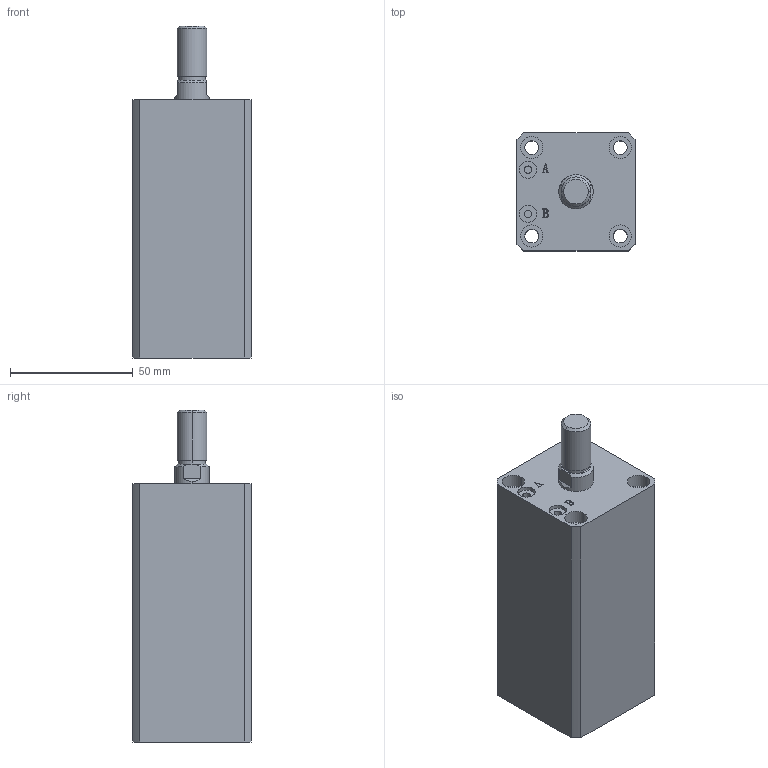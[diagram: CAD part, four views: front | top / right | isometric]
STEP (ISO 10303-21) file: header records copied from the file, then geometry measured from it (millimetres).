
FILE_DESCRIPTION (( 'STEP AP203' ), '1' );
FILE_NAME ('HTB-SDMA25-60W.STEP', '2019-10-07T11:05:21', ( '微软用户' ), ( '微软中国' ), 'SwSTEP 2.0', 'SolidWorks 2012', '' );
FILE_SCHEMA (( 'CONFIG_CONTROL_DESIGN' ));
Length unit declared in the file: millimetre
Products named in the file (3): HTB-SDMA25-60W; HTB-SDMA25-60W活塞杆; HTB-SDMA25-60掛极
Assembly tree (2 placements, depth 2):
  HTB-SDMA25-60W
    HTB-SDMA25-60掛极
    HTB-SDMA25-60W活塞杆
Bounding box: 48 x 48 x 135 mm (x, y, z)
Volume: 211335.6 mm3; surface area: 46450.4 mm2
Topology: 2 solids, 2 shells, 141 faces, 335 edges, 220 vertices
Faces by surface type: plane 67, cylinder 48, bspline 16, torus 6, cone 4
Entity records: 5178 total; most frequent: CARTESIAN_POINT 1609, ORIENTED_EDGE 670, DIRECTION 667, EDGE_CURVE 335, AXIS2_PLACEMENT_3D 242, VERTEX_POINT 220, LINE 183, VECTOR 183
